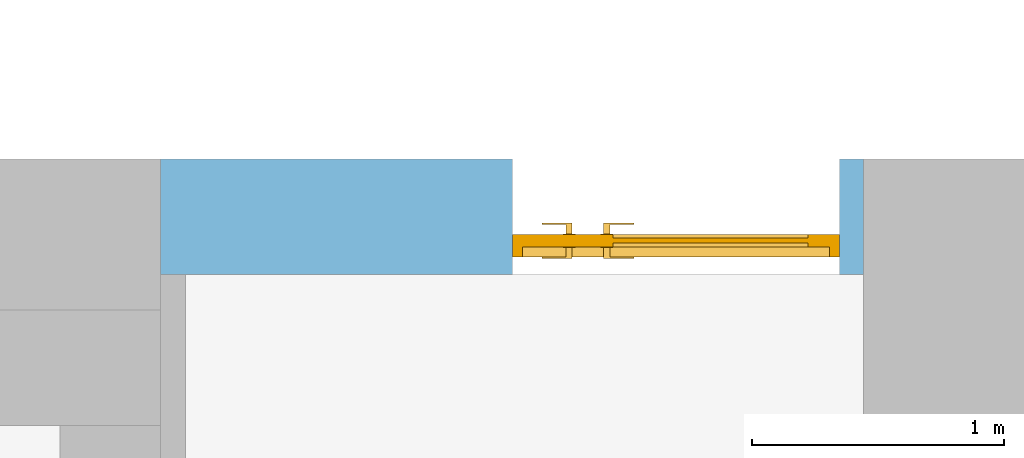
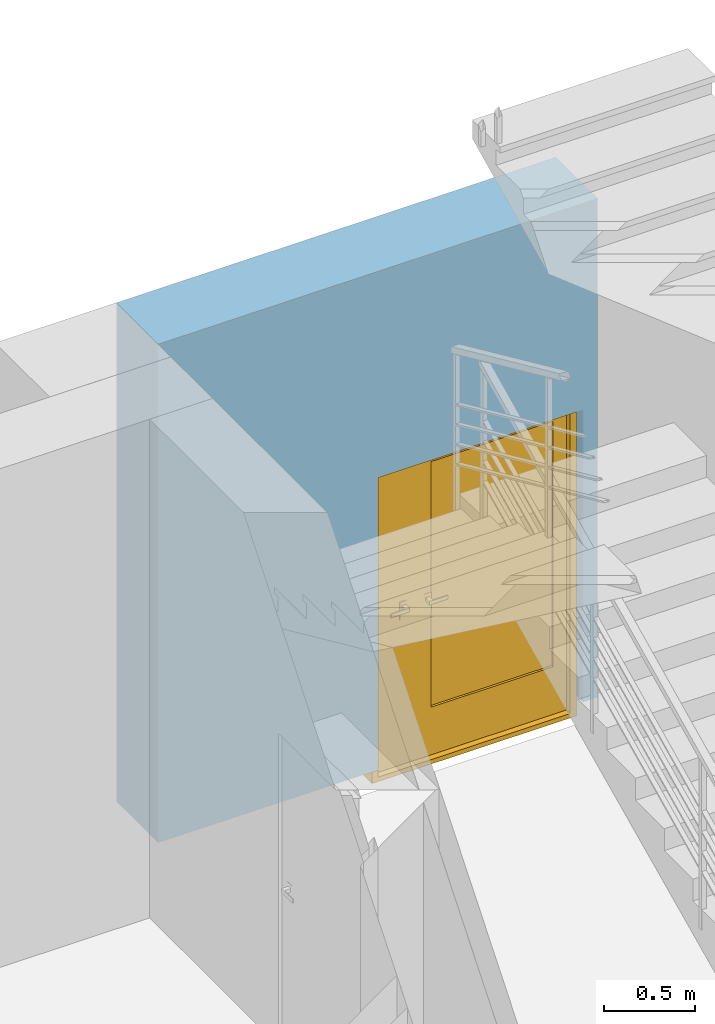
# One storey, part 41 of 49: 1 door, 1 opening, plus 1 element that does not belong to this part.
"""IFC2X3 building model written with IfcOpenShell, lengths in millimetres."""

from ifc_helpers import new_model, entity, si_unit, converted_unit, derived_unit, direction, frame, frame_2d, origin, place, context, subcontext, project, spatial, rectangle, extrude, faceted_brep, source, transform, mapped, material, material_list, layer, layer_set, layer_usage, type_object, type_shapes, element, fill, save


model = new_model("IFC2X3")

# Units and contexts
model_context = context("Model", 3, precision=0.01, world=origin(), true_north=direction((6.12303176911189e-17, 1.0)))
body_context = subcontext(model_context, "Body", "Model", "MODEL_VIEW")
ifc_project = project(units=[si_unit("LENGTHUNIT", "METRE", prefix="MILLI"), si_unit("AREAUNIT", "SQUARE_METRE"), si_unit("VOLUMEUNIT", "CUBIC_METRE"), converted_unit("PLANEANGLEUNIT", "DEGREE", entity("IfcRatioMeasure", 0.0174532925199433), si_unit("PLANEANGLEUNIT", "RADIAN"), dimensions=[0, 0, 0, 0, 0, 0, 0]), si_unit("MASSUNIT", "GRAM", prefix="KILO"), derived_unit("MASSDENSITYUNIT", [(si_unit("MASSUNIT", "GRAM", prefix="KILO"), 1), (si_unit("LENGTHUNIT", "METRE"), -3)]), si_unit("TIMEUNIT", "SECOND"), si_unit("FREQUENCYUNIT", "HERTZ"), si_unit("THERMODYNAMICTEMPERATUREUNIT", "DEGREE_CELSIUS"), derived_unit("THERMALTRANSMITTANCEUNIT", [(si_unit("MASSUNIT", "GRAM", prefix="KILO"), 1), (si_unit("THERMODYNAMICTEMPERATUREUNIT", "KELVIN"), -1), (si_unit("TIMEUNIT", "SECOND"), -3)]), derived_unit("VOLUMETRICFLOWRATEUNIT", [(si_unit("LENGTHUNIT", "METRE"), 3), (si_unit("TIMEUNIT", "SECOND"), -1)]), si_unit("ELECTRICCURRENTUNIT", "AMPERE"), si_unit("ELECTRICVOLTAGEUNIT", "VOLT"), si_unit("POWERUNIT", "WATT"), si_unit("FORCEUNIT", "NEWTON", prefix="KILO"), si_unit("ILLUMINANCEUNIT", "LUX"), si_unit("LUMINOUSFLUXUNIT", "LUMEN"), si_unit("LUMINOUSINTENSITYUNIT", "CANDELA"), derived_unit("USERDEFINED", [(si_unit("MASSUNIT", "GRAM", prefix="KILO"), -1), (si_unit("LENGTHUNIT", "METRE"), -2), (si_unit("TIMEUNIT", "SECOND"), 3), (si_unit("LUMINOUSFLUXUNIT", "LUMEN"), 1)]), derived_unit("LINEARVELOCITYUNIT", [(si_unit("LENGTHUNIT", "METRE"), 1), (si_unit("TIMEUNIT", "SECOND"), -1)]), si_unit("PRESSUREUNIT", "PASCAL"), derived_unit("USERDEFINED", [(si_unit("LENGTHUNIT", "METRE"), -2), (si_unit("MASSUNIT", "GRAM", prefix="KILO"), 1), (si_unit("TIMEUNIT", "SECOND"), -2)])], contexts=[model_context])

# Site, building, storey
site_placement = place(None, frame((-151.875543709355, 2715.0, 0.0)))
site = spatial("IfcSite", under=ifc_project, at=site_placement, Name="Surface", CompositionType="ELEMENT")
building_placement = place(site_placement, origin())
building = spatial("IfcBuilding", under=site, at=building_placement, CompositionType="ELEMENT")
storey_placement = place(building_placement, origin())
storey = spatial("IfcBuildingStorey", under=building, at=storey_placement, Name="1 korrus", CompositionType="ELEMENT", Elevation=3.0969999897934e-10)

# Wall, opening, door
ifc_material_1 = material(Name="Brick, Common")
ifc_layer_1 = layer(ifc_material_1, 440.0)
ifc_material_2 = material(Name="__Kips GN13_tava")
ifc_layer_2 = layer(ifc_material_2, 20.0)
ifc_layer_set = layer_set([ifc_layer_1, ifc_layer_2], Name="Basic Wall:VS-1")
ifc_layer_usage = layer_usage(ifc_layer_set, "AXIS2", "POSITIVE", -230.0)
wall_type = type_object("IfcWallType", Name="Basic Wall:VS-1", PredefinedType="STANDARD", material=ifc_layer_set)
wall_placement = place(storey_placement, frame((35166.6162682, 12980.0, 0.0), z_axis=(0.0, 0.0, 1.0), x_axis=(-1.0, 0.0, 0.0)))
wall = element("IfcWallStandardCase", 1, at=wall_placement, inside=storey, type_object=wall_type, material=ifc_layer_usage, Name="SEIN - 003", ObjectType="Basic Wall:VS-1", context=body_context, shape_type="SweptSolid", body=[
    extrude(rectangle(XDim=2794.00000000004, YDim=459.999999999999, at=frame_2d((1397.00000000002, 0.0), x_axis=(-1.0, 0.0))), origin(), (0.0, 0.0, 1.0), 3350.0),
])
opening_placement = place(wall_placement, frame((1395.0, 230.0, -135.0)))
opening = element("IfcOpeningElement", 2, at=opening_placement, cuts=wall, Name="Kahepoolsed:SU-12.:1", ObjectType="Opening", context=body_context, shape_type="SweptSolid", body=[
    extrude(rectangle(XDim=2099.99999999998, YDim=1300.0, at=frame_2d((1049.99999999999, 650.0), x_axis=(1.0, 0.0))), frame((0.0, 0.0, 0.0), z_axis=(0.0, -1.0, 0.0), x_axis=(0.0, 0.0, 1.0)), (0.0, 0.0, 1.0), 460.0),
])
ifc_material_3 = material(Name="_Alumiiniumprofiil - must")
ifc_material_4 = material(Name="__Uks_hele tamm")
ifc_material_5 = material(Name="EP Tavallinen lasi")
ifc_material_list_1 = material_list([ifc_material_3, ifc_material_4, ifc_material_5])
ifc_material_list_2 = material_list([ifc_material_3, ifc_material_4, ifc_material_5])
door_style = type_object("IfcDoorStyle", Name="SU-12.", ConstructionType="NOTDEFINED", OperationType="FOLDING_TO_RIGHT", ParameterTakesPrecedence=False, Sizeable=False, material=ifc_material_list_2)
shared_shape = source(origin(), body_context, "Body", "Brep", [
    faceted_brep([(320.260051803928, 70.0, 1100.0), (320.260051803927, 108.0, 1100.0), (295.260051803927, 108.0, 1100.0), (295.260051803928, 65.0, 1100.0), (415.260051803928, 65.0, 1100.0), (415.260051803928, 70.0, 1100.0), (320.260051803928, 70.0, 1075.0), (415.260051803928, 70.0, 1075.0), (415.260051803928, 65.0, 1075.0), (295.260051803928, 65.0, 1075.0), (295.260051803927, 108.0, 1075.0), (320.260051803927, 108.0, 1075.0)], [[[0, 1, 2, 3, 4, 5]], [[6, 7, 8, 9, 10, 11]], [[1, 0, 6, 11]], [[2, 1, 11, 10]], [[3, 2, 10, 9]], [[4, 3, 9, 8]], [[5, 4, 8, 7]], [[0, 5, 7, 6]]]),
    faceted_brep([(332.760051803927, 108.0, 1125.0), (332.760051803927, 110.0, 1125.0), (282.760051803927, 110.0, 1125.0), (282.760051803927, 108.0, 1125.0), (332.760051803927, 108.0, 1005.0), (282.760051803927, 108.0, 1005.0), (282.760051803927, 110.0, 1005.0), (332.760051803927, 110.0, 1005.0)], [[[0, 1, 2, 3]], [[4, 5, 6, 7]], [[1, 0, 4, 7]], [[2, 1, 7, 6]], [[3, 2, 6, 5]], [[0, 3, 5, 4]]]),
    faceted_brep([(320.260051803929, 200.0, 1100.0), (415.260051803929, 200.0, 1100.0), (415.260051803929, 205.0, 1100.0), (295.260051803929, 205.0, 1100.0), (295.260051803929, 162.0, 1100.0), (320.260051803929, 162.0, 1100.0), (320.260051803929, 200.0, 1075.0), (320.260051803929, 162.0, 1075.0), (295.260051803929, 162.0, 1075.0), (295.260051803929, 205.0, 1075.0), (415.260051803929, 205.0, 1075.0), (415.260051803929, 200.0, 1075.0)], [[[0, 1, 2, 3, 4, 5]], [[6, 7, 8, 9, 10, 11]], [[5, 7, 6, 0]], [[4, 8, 7, 5]], [[3, 9, 8, 4]], [[2, 10, 9, 3]], [[1, 11, 10, 2]], [[0, 6, 11, 1]]]),
    faceted_brep([(332.760051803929, 162.0, 1125.0), (282.760051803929, 162.0, 1125.0), (282.760051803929, 160.0, 1125.0), (332.760051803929, 160.0, 1125.0), (332.760051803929, 162.0, 1005.0), (332.760051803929, 160.0, 1005.0), (282.760051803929, 160.0, 1005.0), (282.760051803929, 162.0, 1005.0)], [[[0, 1, 2, 3]], [[4, 5, 6, 7]], [[3, 5, 4, 0]], [[2, 6, 5, 3]], [[1, 7, 6, 2]], [[0, 4, 7, 1]]]),
    faceted_brep([(145.260051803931, 70.0, 1100.0), (50.2600518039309, 70.0, 1100.0), (50.2600518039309, 65.0, 1100.0), (170.260051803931, 65.0, 1100.0), (170.260051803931, 108.0, 1100.0), (145.260051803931, 108.0, 1100.0), (145.260051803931, 70.0, 1075.0), (145.260051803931, 108.0, 1075.0), (170.260051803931, 108.0, 1075.0), (170.260051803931, 65.0, 1075.0), (50.2600518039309, 65.0, 1075.0), (50.2600518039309, 70.0, 1075.0)], [[[0, 1, 2, 3, 4, 5]], [[6, 7, 8, 9, 10, 11]], [[5, 7, 6, 0]], [[4, 8, 7, 5]], [[3, 9, 8, 4]], [[2, 10, 9, 3]], [[1, 11, 10, 2]], [[0, 6, 11, 1]]]),
    faceted_brep([(132.760051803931, 108.0, 1125.0), (182.760051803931, 108.0, 1125.0), (182.760051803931, 110.0, 1125.0), (132.760051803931, 110.0, 1125.0), (132.760051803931, 108.0, 1005.0), (132.760051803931, 110.0, 1005.0), (182.760051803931, 110.0, 1005.0), (182.760051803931, 108.0, 1005.0)], [[[0, 1, 2, 3]], [[4, 5, 6, 7]], [[3, 5, 4, 0]], [[2, 6, 5, 3]], [[1, 7, 6, 2]], [[0, 4, 7, 1]]]),
    faceted_brep([(145.260051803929, 200.0, 1100.0), (145.260051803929, 162.0, 1100.0), (170.260051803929, 162.0, 1100.0), (170.260051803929, 205.0, 1100.0), (50.2600518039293, 205.0, 1100.0), (50.2600518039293, 200.0, 1100.0), (145.260051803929, 200.0, 1075.0), (50.2600518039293, 200.0, 1075.0), (50.2600518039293, 205.0, 1075.0), (170.260051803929, 205.0, 1075.0), (170.260051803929, 162.0, 1075.0), (145.260051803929, 162.0, 1075.0)], [[[0, 1, 2, 3, 4, 5]], [[6, 7, 8, 9, 10, 11]], [[1, 0, 6, 11]], [[2, 1, 11, 10]], [[3, 2, 10, 9]], [[4, 3, 9, 8]], [[5, 4, 8, 7]], [[0, 5, 7, 6]]]),
    faceted_brep([(132.760051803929, 162.0, 1125.0), (132.760051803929, 160.0, 1125.0), (182.760051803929, 160.0, 1125.0), (182.760051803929, 162.0, 1125.0), (132.760051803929, 162.0, 1005.0), (182.760051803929, 162.0, 1005.0), (182.760051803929, 160.0, 1005.0), (132.760051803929, 160.0, 1005.0)], [[[0, 1, 2, 3]], [[4, 5, 6, 7]], [[1, 0, 4, 7]], [[2, 1, 7, 6]], [[3, 2, 6, 5]], [[0, 3, 5, 4]]]),
    faceted_brep([(-27.2399481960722, 70.0, 30.0), (-27.2399481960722, 110.0, 30.0), (-27.2399481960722, 110.0, 20.0), (-27.2399481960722, 110.0, 0.0), (-27.2399481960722, 70.0, 0.0), (1192.76005180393, 70.0, 30.0), (1192.76005180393, 70.0, 0.0), (1192.76005180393, 110.0, 0.0), (1192.76005180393, 110.0, 20.0), (1192.76005180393, 110.0, 30.0), (-42.2399481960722, 110.0, 0.0), (-42.2399481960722, 160.0, 0.0), (1207.76005180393, 160.0, 0.0), (1207.76005180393, 110.0, 0.0), (-42.2399481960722, 160.0, 20.0), (-42.2399481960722, 110.0, 20.0), (1207.76005180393, 160.0, 20.0), (1207.76005180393, 110.0, 20.0)], [[[0, 1, 2, 3, 4]], [[5, 6, 7, 8, 9]], [[4, 6, 5, 0]], [[3, 10, 11, 12, 13, 7, 6, 4]], [[9, 8, 2, 1]], [[0, 5, 9, 1]], [[14, 11, 10, 15]], [[16, 17, 13, 12]], [[15, 2, 8, 17, 16, 14]], [[10, 3, 2, 15]], [[14, 16, 12, 11]], [[17, 8, 7, 13]]]),
    faceted_brep([(-67.2399481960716, 70.0, 0.0), (-67.2399481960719, 160.0, 0.0), (-42.2399481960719, 160.0, 0.0), (-42.2399481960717, 110.0, 0.0), (-27.2399481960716, 110.0, 0.0), (-27.2399481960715, 70.0, 0.0), (-27.2399481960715, 70.0, 2060.0), (1192.76005180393, 70.0, 2060.0), (1192.76005180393, 70.0, 0.0), (1232.76005180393, 70.0, 0.0), (1232.76005180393, 70.0, 2100.0), (-67.2399481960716, 70.0, 2100.0), (-27.2399481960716, 110.0, 2060.0), (-42.2399481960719, 110.0, 2075.0), (1207.76005180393, 110.0, 2075.0), (1207.76005180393, 110.0, 0.0), (1192.76005180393, 110.0, 0.0), (1192.76005180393, 110.0, 2060.0), (-42.239948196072, 160.0, 2075.0), (-67.2399481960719, 160.0, 2100.0), (1232.76005180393, 160.0, 2100.0), (1232.76005180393, 160.0, 0.0), (1207.76005180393, 160.0, 0.0), (1207.76005180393, 160.0, 2075.0)], [[[0, 1, 2, 3, 4, 5]], [[5, 6, 7, 8, 9, 10, 11, 0]], [[4, 12, 6, 5]], [[3, 13, 14, 15, 16, 17, 12, 4]], [[2, 18, 13, 3]], [[1, 19, 20, 21, 22, 23, 18, 2]], [[0, 11, 19, 1]], [[9, 21, 20, 10]], [[8, 16, 15, 22, 21, 9]], [[7, 17, 16, 8]], [[14, 23, 22, 15]], [[6, 12, 17, 7]], [[13, 18, 23, 14]], [[10, 20, 19, 11]]]),
    faceted_brep([(83.7600518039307, 160.0, 2000.0), (83.7600518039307, 160.0, 1990.0), (83.7600518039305, 110.0, 1990.0), (83.7600518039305, 110.0, 2000.0), (82.7600518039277, 160.0, 1990.0), (82.7600518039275, 110.0, 1990.0), (82.7600518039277, 160.0, 2000.0), (82.7600518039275, 110.0, 2000.0), (-42.2399481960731, 110.0, 2075.0), (-42.2399481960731, 110.0, 20.0), (232.760051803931, 110.0, 20.0), (232.760051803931, 110.0, 2075.0), (-42.239948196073, 160.0, 2075.0), (232.760051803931, 160.0, 2075.0), (232.760051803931, 160.0, 20.0), (-42.239948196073, 160.0, 20.0)], [[[0, 1, 2, 3]], [[1, 4, 5, 2]], [[4, 6, 7, 5]], [[3, 7, 6, 0]], [[2, 5, 7, 3], [8, 9, 10, 11]], [[0, 6, 4, 1], [12, 13, 14, 15]], [[11, 13, 12, 8]], [[10, 14, 13, 11]], [[9, 15, 14, 10]], [[8, 12, 15, 9]]], outer=[[True], [True], [True], [True], [False, True], [False, True], [True], [True], [True], [True]]),
    faceted_brep([(1107.76005180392, 125.0, 350.0), (1107.76005180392, 125.0, 2000.0), (332.76005180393, 125.0, 2000.0), (332.760051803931, 125.0, 350.0), (1107.76005180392, 145.0, 350.0), (332.760051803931, 145.0, 350.0), (332.760051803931, 145.0, 2000.0), (1107.76005180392, 145.0, 2000.0)], [[[0, 1, 2, 3]], [[4, 5, 6, 7]], [[3, 5, 4, 0]], [[2, 6, 5, 3]], [[1, 7, 6, 2]], [[0, 4, 7, 1]]]),
    faceted_brep([(232.76005180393, 110.0, 2075.0), (232.76005180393, 110.0, 20.0), (1207.76005180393, 110.0, 20.0), (1207.76005180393, 110.0, 2075.0), (1107.76005180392, 110.0, 350.0), (332.760051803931, 110.0, 350.0), (332.76005180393, 110.0, 2000.0), (1107.76005180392, 110.0, 2000.0), (232.760051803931, 160.0, 2075.0), (1207.76005180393, 160.0, 2075.0), (1207.76005180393, 160.0, 20.0), (232.760051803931, 160.0, 20.0), (1107.76005180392, 160.0, 2000.0), (332.760051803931, 160.0, 2000.0), (332.760051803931, 160.0, 350.0), (1107.76005180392, 160.0, 350.0)], [[[0, 1, 2, 3], [4, 5, 6, 7]], [[8, 9, 10, 11], [12, 13, 14, 15]], [[3, 9, 8, 0]], [[2, 10, 9, 3]], [[1, 11, 10, 2]], [[0, 8, 11, 1]], [[12, 15, 4, 7]], [[15, 14, 5, 4]], [[14, 13, 6, 5]], [[7, 6, 13, 12]]]),
])
type_shapes(door_style, [shared_shape])
door_placement = place(opening_placement, frame((-67.2399481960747, 0.0, 0.0), z_axis=(0.0, 0.0, 1.0), x_axis=(-1.0, 0.0, 0.0)))
door = element("IfcDoor", 3, at=door_placement, inside=storey, type_object=door_style, material=ifc_material_list_1, Name="Kahepoolsed:SU-12.", ObjectType="SU-12.", OverallHeight=2099.99999999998, OverallWidth=1300.0, context=body_context, shape_type="MappedRepresentation", body=[
    mapped(shared_shape, transform((0.0, 0.0, 0.0), scale=1.0)),
])
fill(opening, door)

save(model, "model.ifc")
